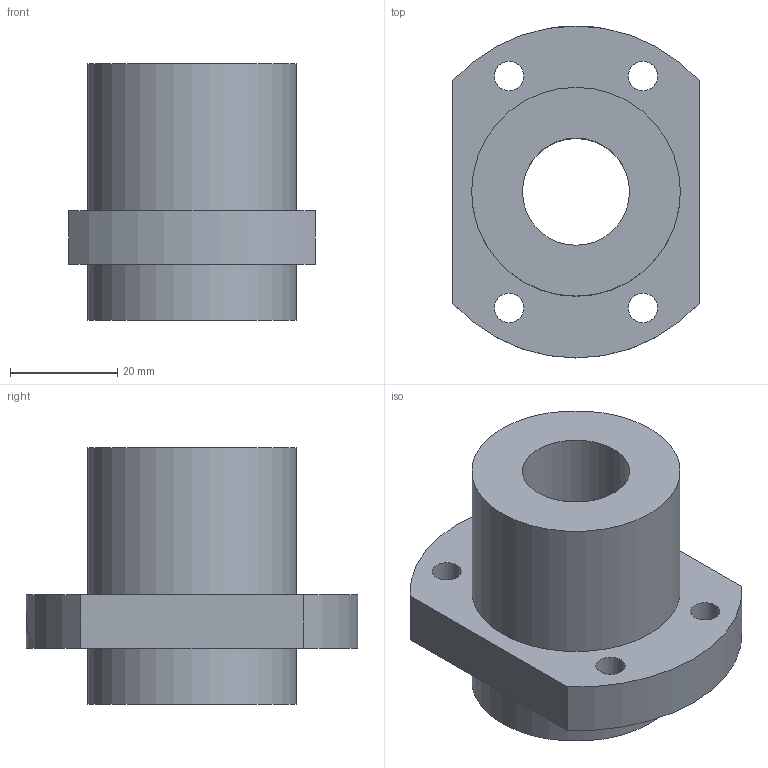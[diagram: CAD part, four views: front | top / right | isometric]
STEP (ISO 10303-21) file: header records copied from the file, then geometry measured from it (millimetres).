
FILE_DESCRIPTION(/* description */ (''),/* implementation_level */ '2;1');
FILE_NAME(/* name */ '20-20S2-1',/* time_stamp */ '2007-05-17T17:51:59+08:00',/* author */ (''),/* organization */ (''),/* preprocessor_version */ 'ST-DEVELOPER v9',/* originating_system */ 'UGS - NX 4.0',/* authorisation */ '');
FILE_SCHEMA (('CONFIG_CONTROL_DESIGN'));
Length unit declared in the file: millimetre
Products named in the file (1): 20-20S2-1
Bounding box: 46 x 62 x 48 mm (x, y, z)
Volume: 54603.3 mm3; surface area: 14826.9 mm2
Topology: 1 solids, 1 shells, 18 faces, 40 edges, 27 vertices
Faces by surface type: cylinder 11, plane 7
Full cylindrical faces by diameter (mm): 4 x1, 5.5 x4, 6 x1, 20 x1, 39 x2
Entity records: 678 total; most frequent: CARTESIAN_POINT 189, DIRECTION 86, ORIENTED_EDGE 60, EDGE_LOOP 42, AXIS2_PLACEMENT_3D 39, FACE_BOUND 33, EDGE_CURVE 30, VERTEX_POINT 26
